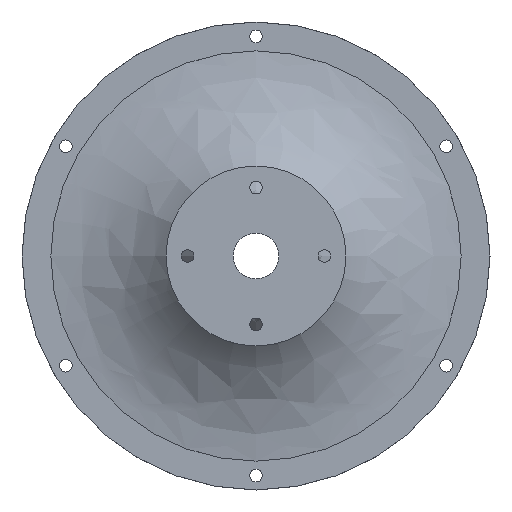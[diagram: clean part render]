
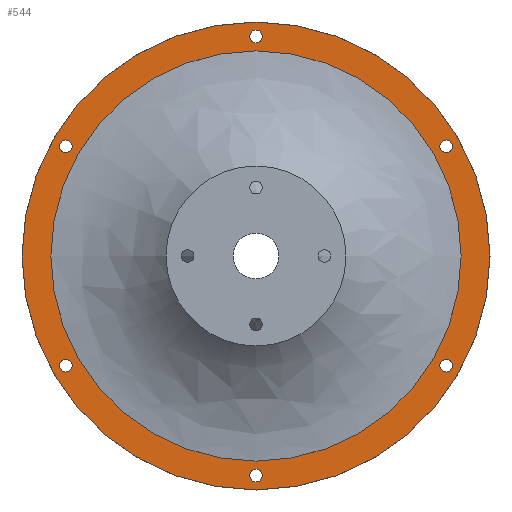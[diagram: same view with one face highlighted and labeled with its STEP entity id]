
A CAD part, left-side view. The second image highlights one B-rep face of the part: STEP entity #544.
In plain terms, the highlighted planar face has unit normal (-1, 0, 0).
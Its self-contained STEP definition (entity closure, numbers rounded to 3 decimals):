
#33=FACE_BOUND('',#106,.T.);
#34=FACE_BOUND('',#107,.T.);
#35=FACE_BOUND('',#108,.T.);
#36=FACE_BOUND('',#109,.T.);
#37=FACE_BOUND('',#110,.T.);
#38=FACE_BOUND('',#111,.T.);
#39=FACE_BOUND('',#112,.T.);
#62=PLANE('',#596);
#73=FACE_OUTER_BOUND('',#105,.T.);
#105=EDGE_LOOP('',(#383));
#106=EDGE_LOOP('',(#384));
#107=EDGE_LOOP('',(#385));
#108=EDGE_LOOP('',(#386));
#109=EDGE_LOOP('',(#387));
#110=EDGE_LOOP('',(#388));
#111=EDGE_LOOP('',(#389));
#112=EDGE_LOOP('',(#390));
#206=CIRCLE('',#589,113.959);
#209=CIRCLE('',#593,129.959);
#212=CIRCLE('',#597,3.5);
#213=CIRCLE('',#598,3.5);
#214=CIRCLE('',#599,3.5);
#215=CIRCLE('',#600,3.5);
#216=CIRCLE('',#601,3.5);
#217=CIRCLE('',#602,3.5);
#246=VERTEX_POINT('',#823);
#249=VERTEX_POINT('',#831);
#252=VERTEX_POINT('',#839);
#253=VERTEX_POINT('',#841);
#254=VERTEX_POINT('',#843);
#255=VERTEX_POINT('',#845);
#256=VERTEX_POINT('',#847);
#257=VERTEX_POINT('',#849);
#298=EDGE_CURVE('',#246,#246,#206,.T.);
#302=EDGE_CURVE('',#249,#249,#209,.T.);
#306=EDGE_CURVE('',#252,#252,#212,.T.);
#307=EDGE_CURVE('',#253,#253,#213,.T.);
#308=EDGE_CURVE('',#254,#254,#214,.T.);
#309=EDGE_CURVE('',#255,#255,#215,.T.);
#310=EDGE_CURVE('',#256,#256,#216,.T.);
#311=EDGE_CURVE('',#257,#257,#217,.T.);
#383=ORIENTED_EDGE('',*,*,#302,.T.);
#384=ORIENTED_EDGE('',*,*,#306,.T.);
#385=ORIENTED_EDGE('',*,*,#307,.T.);
#386=ORIENTED_EDGE('',*,*,#308,.T.);
#387=ORIENTED_EDGE('',*,*,#309,.T.);
#388=ORIENTED_EDGE('',*,*,#310,.T.);
#389=ORIENTED_EDGE('',*,*,#311,.T.);
#390=ORIENTED_EDGE('',*,*,#298,.T.);
#544=ADVANCED_FACE('',(#73,#33,#34,#35,#36,#37,#38,#39),#62,.T.);
#589=AXIS2_PLACEMENT_3D('',#824,#662,#663);
#593=AXIS2_PLACEMENT_3D('',#832,#671,#672);
#596=AXIS2_PLACEMENT_3D('',#838,#678,#679);
#597=AXIS2_PLACEMENT_3D('',#840,#680,#681);
#598=AXIS2_PLACEMENT_3D('',#842,#682,#683);
#599=AXIS2_PLACEMENT_3D('',#844,#684,#685);
#600=AXIS2_PLACEMENT_3D('',#846,#686,#687);
#601=AXIS2_PLACEMENT_3D('',#848,#688,#689);
#602=AXIS2_PLACEMENT_3D('',#850,#690,#691);
#662=DIRECTION('center_axis',(1.,0.,0.));
#663=DIRECTION('ref_axis',(0.,0.,-1.));
#671=DIRECTION('center_axis',(-1.,0.,0.));
#672=DIRECTION('ref_axis',(0.,0.,-1.));
#678=DIRECTION('center_axis',(-1.,0.,0.));
#679=DIRECTION('ref_axis',(0.,0.,1.));
#680=DIRECTION('center_axis',(1.,0.,0.));
#681=DIRECTION('ref_axis',(0.,-1.,0.));
#682=DIRECTION('center_axis',(1.,0.,0.));
#683=DIRECTION('ref_axis',(0.,-1.,0.));
#684=DIRECTION('center_axis',(1.,0.,0.));
#685=DIRECTION('ref_axis',(0.,-1.,0.));
#686=DIRECTION('center_axis',(1.,0.,0.));
#687=DIRECTION('ref_axis',(0.,-1.,0.));
#688=DIRECTION('center_axis',(1.,0.,0.));
#689=DIRECTION('ref_axis',(0.,-1.,0.));
#690=DIRECTION('center_axis',(1.,0.,0.));
#691=DIRECTION('ref_axis',(0.,-1.,0.));
#823=CARTESIAN_POINT('',(73.973,0.,113.959));
#824=CARTESIAN_POINT('Origin',(73.973,0.,0.));
#831=CARTESIAN_POINT('',(73.973,0.,129.959));
#832=CARTESIAN_POINT('Origin',(73.973,0.,0.));
#838=CARTESIAN_POINT('Origin',(73.973,129.959,0.));
#839=CARTESIAN_POINT('',(73.973,109.155,-61.));
#840=CARTESIAN_POINT('Origin',(73.973,105.655,-61.));
#841=CARTESIAN_POINT('',(73.973,-102.155,61.));
#842=CARTESIAN_POINT('Origin',(73.973,-105.655,61.));
#843=CARTESIAN_POINT('',(73.973,109.155,61.));
#844=CARTESIAN_POINT('Origin',(73.973,105.655,61.));
#845=CARTESIAN_POINT('',(73.973,3.5,-122.));
#846=CARTESIAN_POINT('Origin',(73.973,0.,-122.));
#847=CARTESIAN_POINT('',(73.973,-102.155,-61.));
#848=CARTESIAN_POINT('Origin',(73.973,-105.655,-61.));
#849=CARTESIAN_POINT('',(73.973,3.5,122.));
#850=CARTESIAN_POINT('Origin',(73.973,0.,122.));
